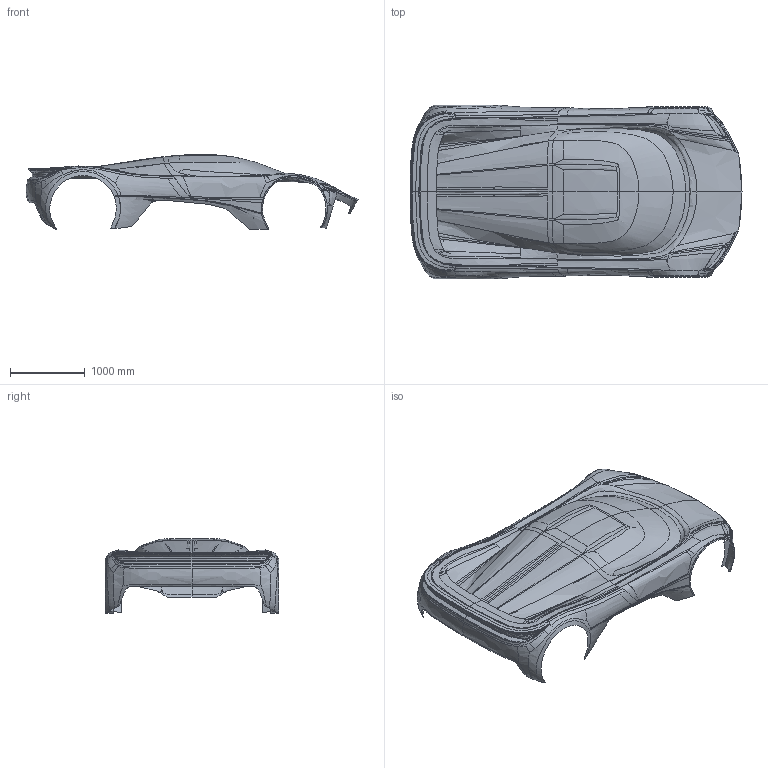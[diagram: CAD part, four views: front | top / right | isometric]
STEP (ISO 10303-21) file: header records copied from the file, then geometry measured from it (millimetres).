
FILE_DESCRIPTION(('Liger macro NURBS open sheets'),'2;1');
FILE_NAME('Body_Main_Shell.step','2026-11-01T00:00:00',(''),(''),'Slate','SolidArc','');
FILE_SCHEMA(('AUTOMOTIVE_DESIGN { 1 0 10303 214 1 1 1 1 }'));
Length unit declared in the file: millimetre
Products named in the file (1): Body_Main_Shell
Bounding box: 4440.2 x 2322.25 x 1000.86 mm (x, y, z)
Surface area: 14606411.6 mm2 (no closed solid volume)
Topology: 0 solids, 2 shells, 288 faces, 831 edges, 538 vertices
Faces by surface type: bspline 288
Entity records: 46859 total; most frequent: CARTESIAN_POINT 41940, ORIENTED_EDGE 1552, B_SPLINE_CURVE_WITH_KNOTS 831, EDGE_CURVE 831, VERTEX_POINT 538, B_SPLINE_SURFACE_WITH_KNOTS 288, EDGE_LOOP 288, FACE_OUTER_BOUND 288
